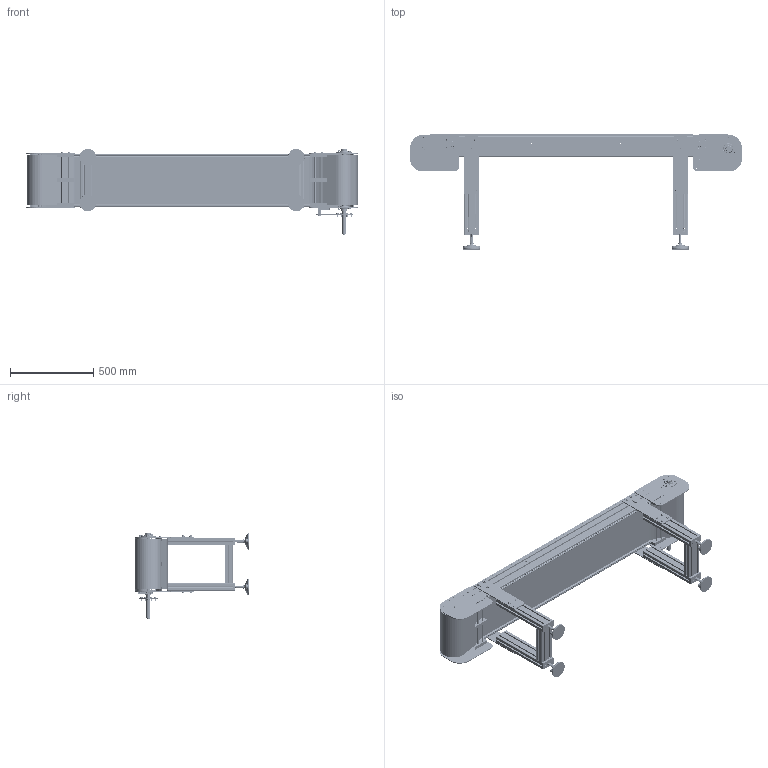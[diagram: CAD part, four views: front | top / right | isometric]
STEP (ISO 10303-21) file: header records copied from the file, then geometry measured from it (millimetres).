
FILE_DESCRIPTION (( 'STEP AP203' ), '1' );
FILE_NAME ('NASTRO_CATENA.step', '2026-04-22T07:38:56', ( 'Utente Windows' ), ( '' ), 'SwSTEP 2.0', 'SolidWorks 2024', '' );
FILE_SCHEMA (( 'CONFIG_CONTROL_DESIGN' ));
Length unit declared in the file: millimetre
Products named in the file (46): VITI TE UNI 5739 INOX_M8x20 UNI 5739 INOX; CHIAVETTE_A 8x7x50 UNI 6604-69; PIEDE_K750; 084.802.027; VITI TSEI UNI 5933 INOX_0816UNI5933A2; SBPF 205; VITI TE UNI 5739 INOX_M6x20 UNI 5739 INOX; RONDELLE UNI 6592 INOX_6.4x12.5 UNI 6592 INOX; 084.302.000 DADI ALUSIC 13x13-1_084.302.004; RONDELLE UNI 6592_8.4x17 UNI 6592; 2000.001.015-1; 084.302.000 DADI ALUSIC LUNGHI_084.302.016; 2000.1200.201-1; 2000.001.014-1; VITI TSEI UNI 5933 INOX_0420UNI5933A2; GAMBE_K750_Default<A macchina>; NASTRO_CATENA; 2000.001.013; 2000.001.016; K1200_R_P; RONDELLE UNI 6592 INOX_8.4x18 UNI 6592 INOX; 2000.001.211; FLANGIA_GAMBE_K750_CON GIUNTI; VITI TSEI UNI 5933 INOX_0820UNI5933A2; RUOTE DI TRAINO NS882_NS882T12R25; RONDELLE FASCIA LARGA UNI 6593 INOX_8.4x24 UNI 6593 INOX; 2000.001.017; CATENA_DIRITTO; 084.402.005; K1200_DIR_63_P_SX; 2000.1200.104; 084.201.019-2; VITI TCEI UNI 5931 INOX_M8x25 UNI 5931 INOX; 084.405.001; 084.302.016; 2000.001.210; RONDELLE FASCIA LARGA UNI 6593 INOX_8.4x32 UNI 6593 INOX; 2000.882.750; VITI TSEI UNI 5933 INOX_0825UNI5933A2; 084.709.002_084.709.002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
Assembly tree (154 placements, depth 3):
  NASTRO_CATENA
    K1200_TT_1_Default<A macchina>
    K1200_DIR_63_P_SX
      2000.001.013
      2000.001.014-1  x2
      2000.001.015-1  x3
      084.808.005-1
      2000.1200.104  x2
      2000.001.016  x2
      2000.001.017
      CHIAVETTE_A 8x7x50 UNI 6604-69  x3
      SBPF 205  x2
      RUOTE DI TRAINO NS882_NS882T12R25
      084.802.027
      VITI TSEI UNI 5933 INOX_0420UNI5933A2  x8
      RONDELLE UNI 6592 INOX_8.4x18 UNI 6592 INOX  x6
      VITI TSEI UNI 5933 INOX_0816UNI5933A2  x6
      084.302.016  x4
      VITI TCEI UNI 5931 INOX_M8x25 UNI 5931 INOX  x2
      RONDELLE UNI 6592 INOX_6.4x12.5 UNI 6592 INOX  x4
      VITI TE UNI 5739 INOX_M6x20 UNI 5739 INOX  x4
      GRANI A PUNTA PIATTA UNI 5923 INOX_M8x20 UNI 5923 INOX
      RONDELLE FASCIA LARGA UNI 6593 INOX_8.4x24 UNI 6593 INOX
      RONDELLE FASCIA LARGA UNI 6593 INOX_8.4x32 UNI 6593 INOX
      VITI TE UNI 5739 INOX_M8x20 UNI 5739 INOX  x12
      2000.1200.102-1
      2000.001.102-1
    K1200_R_P
      2000.001.014-1  x2
      2000.1200.201-1
      2000.1200.104  x2
      2000.001.210
      2000.001.211
      2000.001.016  x2
      2000.001.015-1  x3
      RUOTE DI TRAINO NS882_NS882T12R25
      VITI TSEI UNI 5933 INOX_0420UNI5933A2  x8
      RONDELLE UNI 6592 INOX_6.4x12.5 UNI 6592 INOX  x4
      VITI TE UNI 5739 INOX_M6x20 UNI 5739 INOX  x4
      VITI TSEI UNI 5933 INOX_0825UNI5933A2  x2
      084.302.000 DADI ALUSIC LUNGHI_084.302.016  x4
      VITI TSEI UNI 5933 INOX_0820UNI5933A2  x8
    GAMBE_K750_Default<A macchina>  x2
    FLANGIA_GAMBE_K750_CON GIUNTI  x4
      084.709.002_084.709.002
      084.302.000 DADI ALUSIC 13x13-1_084.302.004
      RONDELLE UNI 6592_8.4x17 UNI 6592
      084.301.000 VITI ALUSIC1_084.301.003
    PIEDE_K750  x4
      084.405.001
      084.402.005
      084.301.000 VITI ALUSIC1_084.301.003
    084.201.019-2  x4
    CATENA_DIRITTO
    2000.882.750
Bounding box: 1999 x 692.03 x 517.89 mm (x, y, z)
Volume: 24105245.8 mm3; surface area: 9980105 mm2
Topology: 232 solids, 235 shells, 7928 faces, 20377 edges, 13032 vertices
Faces by surface type: cylinder 3448, plane 3141, cone 586, torus 472, bspline 245, sphere 36
Entity records: 131811 total; most frequent: CARTESIAN_POINT 36757, ORIENTED_EDGE 18446, DIRECTION 18323, EDGE_CURVE 9232, AXIS2_PLACEMENT_3D 6490, VERTEX_POINT 5945, LINE 5343, VECTOR 5343
